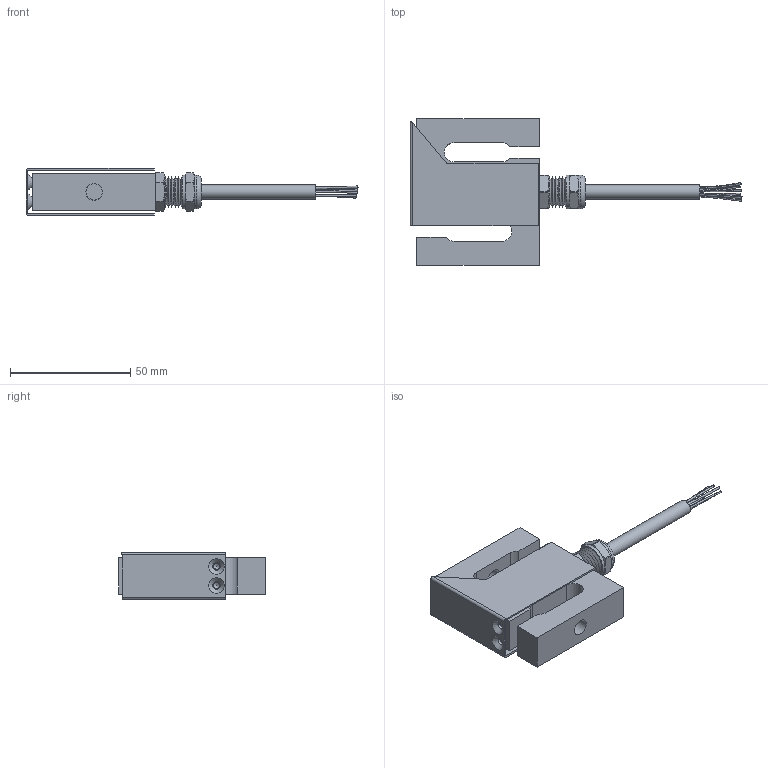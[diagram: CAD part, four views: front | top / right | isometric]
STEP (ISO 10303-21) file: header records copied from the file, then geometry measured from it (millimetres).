
FILE_DESCRIPTION(/* description */ (''),/* implementation_level */ '2;1');
FILE_NAME(/* name */ 'F:/Flintec Files/Working/UXT potential cad error/Final/0084460 UXT 50kg & 100kg.step',/* time_stamp */ '2021-02-04T11:40:03+00:00',/* author */ (''),/* organization */ (''),/* preprocessor_version */ 'ST-DEVELOPER v18.1',/* originating_system */ 'Autodesk Translation Framework v9.7.1.1290',/* authorisation */ '');
FILE_SCHEMA (('AUTOMOTIVE_DESIGN { 1 0 10303 214 3 1 1 }'));
Length unit declared in the file: millimetre
Products named in the file (5): 0084460; 0042350; 0080104; 0084559; Component7
Assembly tree (4 placements, depth 2):
  0084460
    0042350
    0080104
    0084559
    Component7
Bounding box: 138.01 x 61 x 19.54 mm (x, y, z)
Volume: 44396.5 mm3; surface area: 23379.9 mm2
Topology: 5 solids, 5 shells, 579 faces, 1292 edges, 849 vertices
Faces by surface type: plane 253, bspline 140, cylinder 133, cone 50, torus 3
Full cylindrical faces by diameter (mm): 0.5 x99, 2.5 x2, 3.1 x2, 6 x1, 6.8 x2, 7.62 x2, 11.316 x2, 12.695 x1, 13.97 x2
Entity records: 21502 total; most frequent: CARTESIAN_POINT 9111, ORIENTED_EDGE 2580, DIRECTION 2258, EDGE_CURVE 1290, VERTEX_POINT 849, AXIS2_PLACEMENT_3D 818, EDGE_LOOP 719, LINE 622
